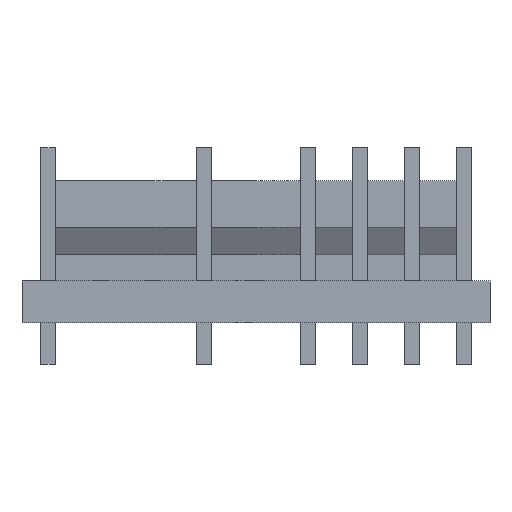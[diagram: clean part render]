
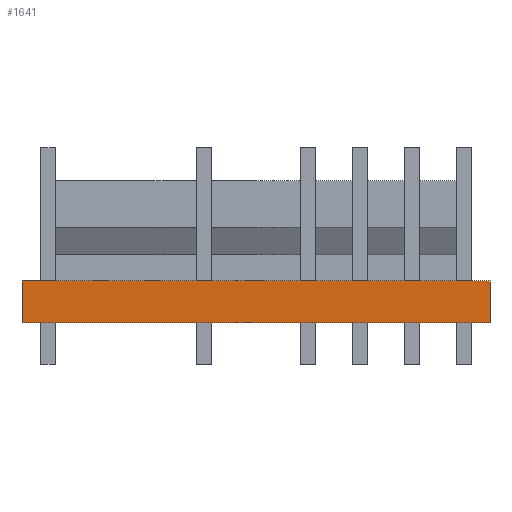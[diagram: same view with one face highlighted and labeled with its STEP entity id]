
A CAD part, front view. The second image highlights one B-rep face of the part: STEP entity #1641.
In plain terms, the highlighted planar face has unit normal (0, -1, 0).
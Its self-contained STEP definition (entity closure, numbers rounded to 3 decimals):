
#97=DIRECTION('',(0.,0.,-1.));
#98=VECTOR('',#97,3.175);
#99=CARTESIAN_POINT('',(-17.831,-3.035,0.));
#100=LINE('',#99,#98);
#173=DIRECTION('',(0.,0.,-1.));
#174=VECTOR('',#173,3.175);
#175=CARTESIAN_POINT('',(17.831,-3.035,0.));
#176=LINE('',#175,#174);
#358=DIRECTION('',(1.,0.,0.));
#359=VECTOR('',#358,35.662);
#360=CARTESIAN_POINT('',(-17.831,-3.035,-3.175));
#361=LINE('',#360,#359);
#362=DIRECTION('',(1.,0.,0.));
#363=VECTOR('',#362,35.662);
#364=CARTESIAN_POINT('',(-17.831,-3.035,0.));
#365=LINE('',#364,#363);
#1032=CARTESIAN_POINT('',(-17.831,-3.035,0.));
#1033=VERTEX_POINT('',#1032);
#1034=CARTESIAN_POINT('',(-17.831,-3.035,-3.175));
#1035=VERTEX_POINT('',#1034);
#1044=CARTESIAN_POINT('',(17.831,-3.035,0.));
#1045=VERTEX_POINT('',#1044);
#1046=CARTESIAN_POINT('',(17.831,-3.035,-3.175));
#1047=VERTEX_POINT('',#1046);
#1629=CARTESIAN_POINT('',(-17.831,-3.035,0.));
#1630=DIRECTION('',(0.,-1.,0.));
#1631=DIRECTION('',(0.,0.,-1.));
#1632=AXIS2_PLACEMENT_3D('',#1629,#1630,#1631);
#1633=PLANE('',#1632);
#1634=ORIENTED_EDGE('',*,*,#1357,.F.);
#1636=ORIENTED_EDGE('',*,*,#1635,.T.);
#1637=ORIENTED_EDGE('',*,*,#1460,.T.);
#1638=ORIENTED_EDGE('',*,*,#1622,.F.);
#1639=EDGE_LOOP('',(#1634,#1636,#1637,#1638));
#1640=FACE_OUTER_BOUND('',#1639,.F.);
#1641=ADVANCED_FACE('',(#1640),#1633,.T.);
#1357=EDGE_CURVE('',#1033,#1035,#100,.T.);
#1460=EDGE_CURVE('',#1045,#1047,#176,.T.);
#1622=EDGE_CURVE('',#1035,#1047,#361,.T.);
#1635=EDGE_CURVE('',#1033,#1045,#365,.T.);
